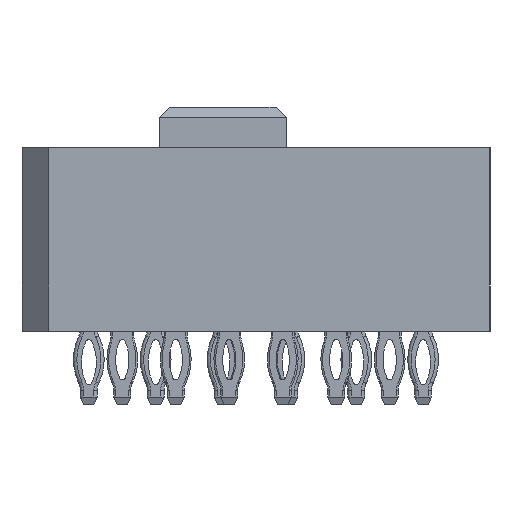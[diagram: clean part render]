
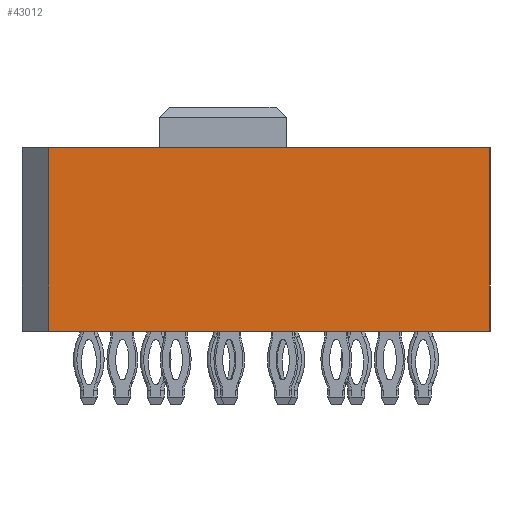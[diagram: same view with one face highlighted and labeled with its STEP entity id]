
A CAD part, left-side view. The second image highlights one B-rep face of the part: STEP entity #43012.
In plain terms, the highlighted planar face has unit normal (-1, 0, 0).
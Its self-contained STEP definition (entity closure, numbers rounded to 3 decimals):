
#3457 = CARTESIAN_POINT ( 'NONE',  ( -118.238, 16.605, 3.25 ) ) ;
#3475 = FACE_OUTER_BOUND ( 'NONE', #112744, .T. ) ;
#3477 = PLANE ( 'NONE',  #22712 ) ;
#3481 = DIRECTION ( 'NONE',  ( 1., 0., 0. ) ) ;
#3483 = DIRECTION ( 'NONE',  ( 0., 1., 0. ) ) ;
#5064 = CARTESIAN_POINT ( 'NONE',  ( -118.238, 3.105, 3.35 ) ) ;
#5171 = CARTESIAN_POINT ( 'NONE',  ( -118.238, 16.305, 3.35 ) ) ;
#5310 = CARTESIAN_POINT ( 'NONE',  ( -118.238, 16.305, -2.15 ) ) ;
#5317 = CARTESIAN_POINT ( 'NONE',  ( -118.238, 3.105, -2.15 ) ) ;
#22712 = AXIS2_PLACEMENT_3D ( 'NONE', #3457, #3481, #3483 ) ;
#43012 = ADVANCED_FACE ( 'NONE', ( #3475 ), #3477, .F. ) ;
#49577 = VERTEX_POINT ( 'NONE', #5064 ) ;
#49617 = VERTEX_POINT ( 'NONE', #5171 ) ;
#49669 = VERTEX_POINT ( 'NONE', #5310 ) ;
#49672 = VERTEX_POINT ( 'NONE', #5317 ) ;
#54967 = CARTESIAN_POINT ( 'NONE',  ( -118.238, 16.605, -2.15 ) ) ;
#54970 = LINE ( 'NONE', #54967, #57551 ) ;
#54977 = DIRECTION ( 'NONE',  ( 0., -1., 0. ) ) ;
#57551 = VECTOR ( 'NONE', #54977, 1000. ) ;
#60132 = LINE ( 'NONE', #60135, #69699 ) ;
#60135 = CARTESIAN_POINT ( 'NONE',  ( -118.238, 3.105, 3.35 ) ) ;
#60137 = DIRECTION ( 'NONE',  ( 0., 0., -1. ) ) ;
#60151 = LINE ( 'NONE', #60157, #69703 ) ;
#60157 = CARTESIAN_POINT ( 'NONE',  ( -118.238, 16.305, 3.25 ) ) ;
#60161 = DIRECTION ( 'NONE',  ( 0., 0., -1. ) ) ;
#60176 = LINE ( 'NONE', #60183, #69725 ) ;
#60183 = CARTESIAN_POINT ( 'NONE',  ( -118.238, 16.605, 3.35 ) ) ;
#60186 = DIRECTION ( 'NONE',  ( 0., -1., 0. ) ) ;
#69699 = VECTOR ( 'NONE', #60137, 1000. ) ;
#69703 = VECTOR ( 'NONE', #60161, 1000. ) ;
#69725 = VECTOR ( 'NONE', #60186, 1000. ) ;
#105503 = EDGE_CURVE ( 'NONE', #49577, #49672, #60132, .T. ) ;
#105509 = EDGE_CURVE ( 'NONE', #49617, #49669, #60151, .T. ) ;
#105515 = EDGE_CURVE ( 'NONE', #49617, #49577, #60176, .T. ) ;
#106319 = EDGE_CURVE ( 'NONE', #49669, #49672, #54970, .T. ) ;
#112744 = EDGE_LOOP ( 'NONE', ( #128092, #128093, #128094, #128095 ) ) ;
#128092 = ORIENTED_EDGE ( 'NONE', *, *, #105515, .F. ) ;
#128093 = ORIENTED_EDGE ( 'NONE', *, *, #105509, .T. ) ;
#128094 = ORIENTED_EDGE ( 'NONE', *, *, #106319, .T. ) ;
#128095 = ORIENTED_EDGE ( 'NONE', *, *, #105503, .F. ) ;
